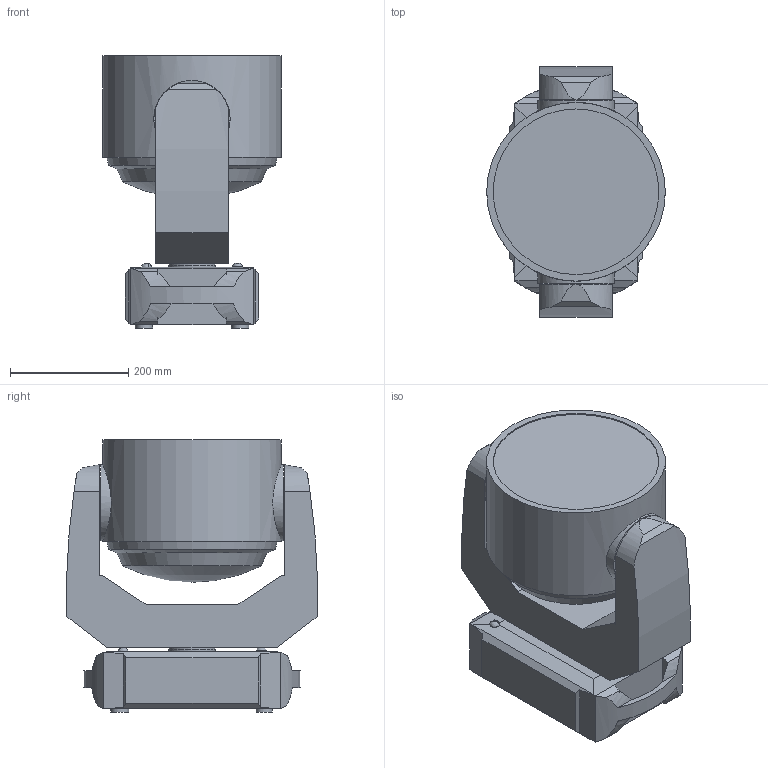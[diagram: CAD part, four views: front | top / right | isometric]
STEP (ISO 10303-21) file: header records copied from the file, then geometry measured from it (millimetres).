
FILE_DESCRIPTION(/* description */ ('Unknown'),/* implementation_level */ '2;1');
FILE_NAME(/* name */ '3D Robin iSpiiderX',/* time_stamp */ '2024-03-08T08:28:02+01:00',/* author */ ('Unknown'),/* organization */ ('Unknown'),/* preprocessor_version */ 'ST-DEVELOPER v18.104',/* originating_system */ 'Solid Edge',/* authorisation */ 'Unknown');
FILE_SCHEMA (('AUTOMOTIVE_DESIGN {1 0 10303 214 3 1 1}'));
Length unit declared in the file: millimetre
Products named in the file (4): 3D Robin iSpiiderX; iSpiiderX-Base; iSpiiderX-Arm; iSpiiderX-Head
Assembly tree (3 placements, depth 2):
  3D Robin iSpiiderX
    iSpiiderX-Base
    iSpiiderX-Arm
    iSpiiderX-Head
Bounding box: 302.01 x 423.31 x 460.1 mm (x, y, z)
Volume: 28648157.5 mm3; surface area: 941607.1 mm2
Topology: 3 solids, 3 shells, 109 faces, 293 edges, 195 vertices
Faces by surface type: plane 60, cylinder 32, bspline 10, cone 4, torus 2, sphere 1
Full cylindrical faces by diameter (mm): 17 x1, 22 x1, 27.261 x2, 29.966 x2, 45 x2, 79 x1, 79.2 x1, 129 x2, 280 x1, 302.008 x1
Entity records: 4029 total; most frequent: CARTESIAN_POINT 1385, ORIENTED_EDGE 524, DIRECTION 496, EDGE_CURVE 262, VERTEX_POINT 185, AXIS2_PLACEMENT_3D 180, EDGE_LOOP 141, FACE_BOUND 141
